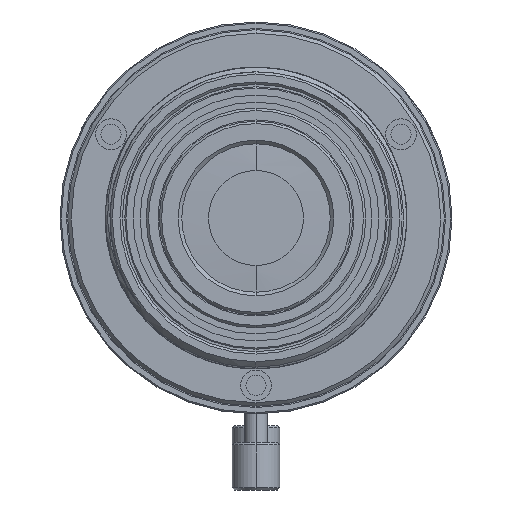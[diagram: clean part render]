
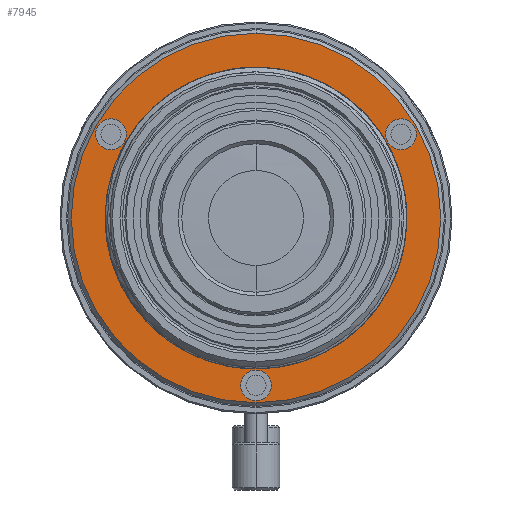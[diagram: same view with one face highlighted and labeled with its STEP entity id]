
A CAD part, front view. The second image highlights one B-rep face of the part: STEP entity #7945.
In plain terms, the highlighted planar face has unit normal (0, -1, 0).
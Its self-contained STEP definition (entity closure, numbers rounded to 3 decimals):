
#6607=CARTESIAN_POINT('',(0.,-2.674,0.));
#6608=DIRECTION('',(0.,1.,0.));
#6609=DIRECTION('',(0.,0.,-1.));
#6610=AXIS2_PLACEMENT_3D('',#6607,#6608,#6609);
#6612=CARTESIAN_POINT('',(0.,-2.674,0.));
#6613=DIRECTION('',(0.,-1.,0.));
#6614=DIRECTION('',(0.,0.,-1.));
#6615=AXIS2_PLACEMENT_3D('',#6612,#6613,#6614);
#6617=CARTESIAN_POINT('',(0.,-2.674,0.));
#6618=DIRECTION('',(0.,1.,0.));
#6619=DIRECTION('',(0.,0.,-1.));
#6620=AXIS2_PLACEMENT_3D('',#6617,#6618,#6619);
#6622=CARTESIAN_POINT('',(0.,-2.674,0.));
#6623=DIRECTION('',(0.,1.,0.));
#6624=DIRECTION('',(0.,0.,1.));
#6625=AXIS2_PLACEMENT_3D('',#6622,#6623,#6624);
#6627=CARTESIAN_POINT('',(0.,-2.674,-14.1));
#6628=DIRECTION('',(0.,-1.,0.));
#6629=DIRECTION('',(0.,0.,-1.));
#6630=AXIS2_PLACEMENT_3D('',#6627,#6628,#6629);
#6632=CARTESIAN_POINT('',(0.,-2.674,-14.1));
#6633=DIRECTION('',(0.,-1.,0.));
#6634=DIRECTION('',(0.,0.,1.));
#6635=AXIS2_PLACEMENT_3D('',#6632,#6633,#6634);
#6637=CARTESIAN_POINT('',(12.211,-2.674,7.05));
#6638=DIRECTION('',(0.,-1.,0.));
#6639=DIRECTION('',(0.866,0.,0.5));
#6640=AXIS2_PLACEMENT_3D('',#6637,#6638,#6639);
#6642=CARTESIAN_POINT('',(12.211,-2.674,7.05));
#6643=DIRECTION('',(0.,-1.,0.));
#6644=DIRECTION('',(-0.866,0.,-0.5));
#6645=AXIS2_PLACEMENT_3D('',#6642,#6643,#6644);
#6647=CARTESIAN_POINT('',(-12.211,-2.674,7.05));
#6648=DIRECTION('',(0.,-1.,0.));
#6649=DIRECTION('',(-0.866,0.,0.5));
#6650=AXIS2_PLACEMENT_3D('',#6647,#6648,#6649);
#6652=CARTESIAN_POINT('',(-12.211,-2.674,7.05));
#6653=DIRECTION('',(0.,-1.,0.));
#6654=DIRECTION('',(0.866,0.,-0.5));
#6655=AXIS2_PLACEMENT_3D('',#6652,#6653,#6654);
#7691=CARTESIAN_POINT('',(0.,-2.674,-12.1));
#7692=CARTESIAN_POINT('',(0.,-2.674,12.1));
#7693=VERTEX_POINT('',#7691);
#7694=VERTEX_POINT('',#7692);
#7699=CARTESIAN_POINT('',(0.,-2.674,-15.55));
#7700=CARTESIAN_POINT('',(0.,-2.674,15.55));
#7701=VERTEX_POINT('',#7699);
#7702=VERTEX_POINT('',#7700);
#7739=CARTESIAN_POINT('',(0.,-2.674,-15.4));
#7740=CARTESIAN_POINT('',(0.,-2.674,-12.8));
#7741=VERTEX_POINT('',#7739);
#7742=VERTEX_POINT('',#7740);
#7755=CARTESIAN_POINT('',(13.337,-2.674,7.7));
#7756=CARTESIAN_POINT('',(11.085,-2.674,6.4));
#7757=VERTEX_POINT('',#7755);
#7758=VERTEX_POINT('',#7756);
#7771=CARTESIAN_POINT('',(-13.337,-2.674,7.7));
#7772=CARTESIAN_POINT('',(-11.085,-2.674,6.4));
#7773=VERTEX_POINT('',#7771);
#7774=VERTEX_POINT('',#7772);
#7912=CARTESIAN_POINT('',(0.,-2.674,0.));
#7913=DIRECTION('',(0.,-1.,0.));
#7914=DIRECTION('',(0.,0.,1.));
#7915=AXIS2_PLACEMENT_3D('',#7912,#7913,#7914);
#7916=PLANE('',#7915);
#7917=ORIENTED_EDGE('',*,*,#7892,.T.);
#7918=ORIENTED_EDGE('',*,*,#7906,.T.);
#7919=EDGE_LOOP('',(#7917,#7918));
#7920=FACE_OUTER_BOUND('',#7919,.F.);
#7922=ORIENTED_EDGE('',*,*,#7921,.F.);
#7924=ORIENTED_EDGE('',*,*,#7923,.T.);
#7925=EDGE_LOOP('',(#7922,#7924));
#7926=FACE_BOUND('',#7925,.F.);
#7928=ORIENTED_EDGE('',*,*,#7927,.T.);
#7930=ORIENTED_EDGE('',*,*,#7929,.T.);
#7931=EDGE_LOOP('',(#7928,#7930));
#7932=FACE_BOUND('',#7931,.F.);
#7934=ORIENTED_EDGE('',*,*,#7933,.T.);
#7936=ORIENTED_EDGE('',*,*,#7935,.T.);
#7937=EDGE_LOOP('',(#7934,#7936));
#7938=FACE_BOUND('',#7937,.F.);
#7940=ORIENTED_EDGE('',*,*,#7939,.T.);
#7942=ORIENTED_EDGE('',*,*,#7941,.T.);
#7943=EDGE_LOOP('',(#7940,#7942));
#7944=FACE_BOUND('',#7943,.F.);
#7945=ADVANCED_FACE('',(#7920,#7926,#7932,#7938,#7944),#7916,.T.);
#6611=CIRCLE('',#6610,12.1);
#6616=CIRCLE('',#6615,12.1);
#6621=CIRCLE('',#6620,15.55);
#6626=CIRCLE('',#6625,15.55);
#6631=CIRCLE('',#6630,1.3);
#6636=CIRCLE('',#6635,1.3);
#6641=CIRCLE('',#6640,1.3);
#6646=CIRCLE('',#6645,1.3);
#6651=CIRCLE('',#6650,1.3);
#6656=CIRCLE('',#6655,1.3);
#7892=EDGE_CURVE('',#7701,#7702,#6621,.T.);
#7906=EDGE_CURVE('',#7702,#7701,#6626,.T.);
#7921=EDGE_CURVE('',#7693,#7694,#6611,.T.);
#7923=EDGE_CURVE('',#7693,#7694,#6616,.T.);
#7927=EDGE_CURVE('',#7741,#7742,#6631,.T.);
#7929=EDGE_CURVE('',#7742,#7741,#6636,.T.);
#7933=EDGE_CURVE('',#7757,#7758,#6641,.T.);
#7935=EDGE_CURVE('',#7758,#7757,#6646,.T.);
#7939=EDGE_CURVE('',#7773,#7774,#6651,.T.);
#7941=EDGE_CURVE('',#7774,#7773,#6656,.T.);
